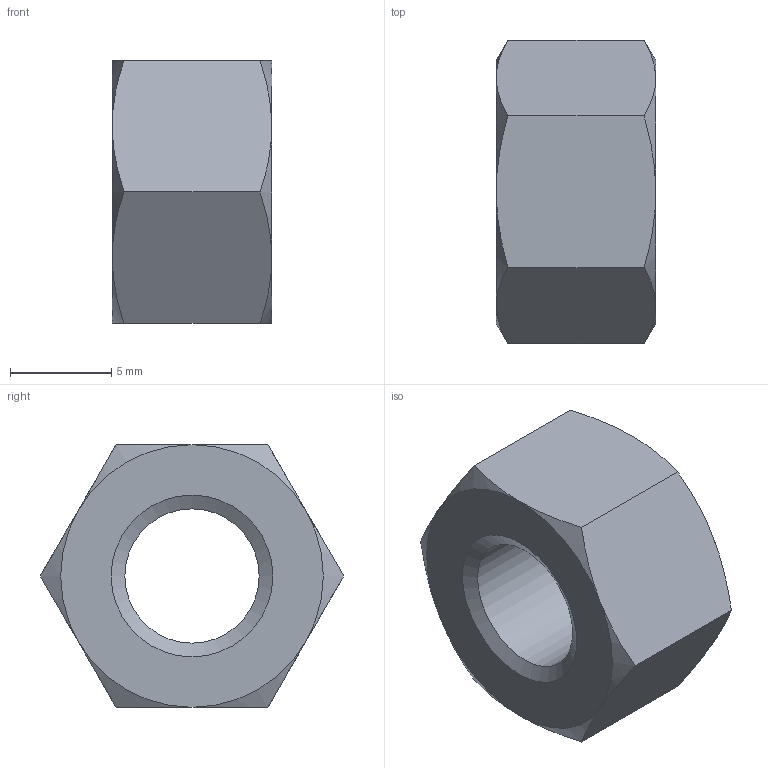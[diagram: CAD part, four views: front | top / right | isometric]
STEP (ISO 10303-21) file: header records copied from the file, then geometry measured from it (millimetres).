
FILE_DESCRIPTION(/* description */ ('6각 너트 및 6각 가는 너트'),/* implementation_level */ '2;1');
FILE_NAME(/* name */ '',/* time_stamp */ '2024-11-28T15:16:10+09:00',/* author */ ('jhkim'),/* organization */ (''),/* preprocessor_version */ 'ST-DEVELOPER v20',/* originating_system */ 'Autodesk Inventor 2025',/* authorisation */ '');
FILE_SCHEMA (('AUTOMOTIVE_DESIGN { 1 0 10303 214 3 1 1 }'));
Length unit declared in the file: millimetre
Products named in the file (1): 육각 너트 M8
Bounding box: 7.9 x 15.01 x 13 mm (x, y, z)
Volume: 871.4 mm3; surface area: 718.8 mm2
Topology: 1 solids, 1 shells, 23 faces, 50 edges, 29 vertices
Faces by surface type: cone 14, plane 8, cylinder 1
Full cylindrical faces by diameter (mm): 6.647 x1
Entity records: 640 total; most frequent: CARTESIAN_POINT 151, ORIENTED_EDGE 100, DIRECTION 91, EDGE_CURVE 50, AXIS2_PLACEMENT_3D 41, VERTEX_POINT 29, EDGE_LOOP 25, FACE_OUTER_BOUND 23
